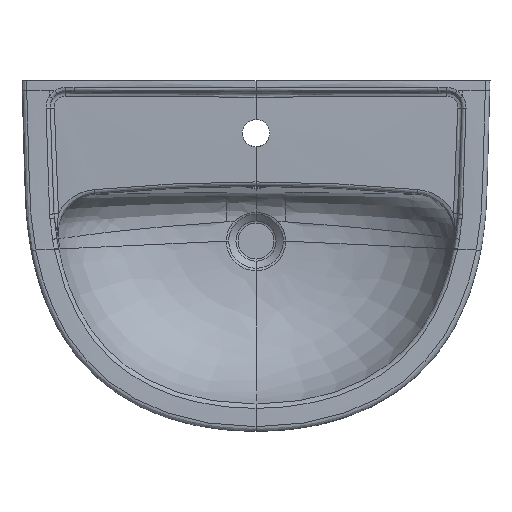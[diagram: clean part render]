
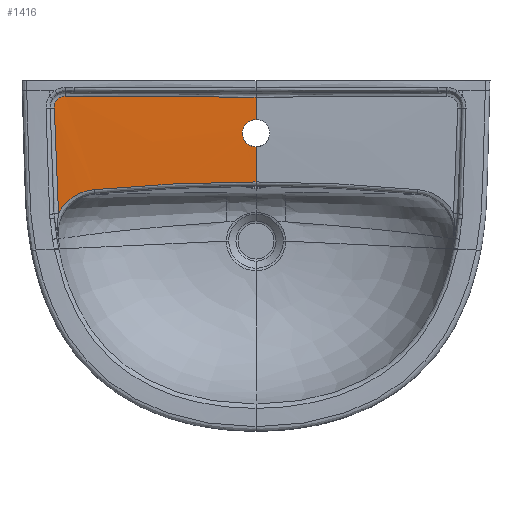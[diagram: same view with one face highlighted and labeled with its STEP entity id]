
A CAD part, top view. The second image highlights one B-rep face of the part: STEP entity #1416.
In plain terms, the highlighted free-form (B-spline) face has degree [3, 3] with [5, 5] control points.
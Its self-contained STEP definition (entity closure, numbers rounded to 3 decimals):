
#1416=ADVANCED_FACE('',(#2364),#2116,.F.);
#2116=B_SPLINE_SURFACE_WITH_KNOTS('',3,3,((#23192,#23193,#23194,#23195,
#23196),(#23197,#23198,#23199,#23200,#23201),(#23202,#23203,#23204,#23205,
#23206),(#23207,#23208,#23209,#23210,#23211),(#23212,#23213,#23214,#23215,
#23216)),.UNSPECIFIED.,.F.,.F.,.F.,(4,1,4),(4,1,4),(0.,0.385,1.),(0.,0.5,
1.),.UNSPECIFIED.);
#2364=FACE_OUTER_BOUND('',#3156,.T.);
#3156=EDGE_LOOP('',(#4463,#4464,#4465,#4466,#4467,#4468,#4469,#4470));
#4463=ORIENTED_EDGE('',*,*,#9200,.F.);
#4464=ORIENTED_EDGE('',*,*,#9201,.F.);
#4465=ORIENTED_EDGE('',*,*,#9086,.F.);
#4466=ORIENTED_EDGE('',*,*,#9082,.F.);
#4467=ORIENTED_EDGE('',*,*,#9085,.F.);
#4468=ORIENTED_EDGE('',*,*,#9098,.F.);
#4469=ORIENTED_EDGE('',*,*,#9093,.F.);
#4470=ORIENTED_EDGE('',*,*,#9202,.F.);
#7901=VERTEX_POINT('',#17830);
#7902=VERTEX_POINT('',#17837);
#7903=VERTEX_POINT('',#17891);
#7904=VERTEX_POINT('',#17949);
#7908=VERTEX_POINT('',#18046);
#7910=VERTEX_POINT('',#18052);
#7974=VERTEX_POINT('',#23180);
#7975=VERTEX_POINT('',#23181);
#9082=EDGE_CURVE('',#7901,#7902,#10927,.T.);
#9085=EDGE_CURVE('',#7903,#7901,#10929,.T.);
#9086=EDGE_CURVE('',#7902,#7904,#10930,.T.);
#9093=EDGE_CURVE('',#7908,#7910,#10935,.T.);
#9098=EDGE_CURVE('',#7910,#7903,#10940,.T.);
#9200=EDGE_CURVE('',#7974,#7975,#11033,.T.);
#9201=EDGE_CURVE('',#7904,#7974,#11034,.T.);
#9202=EDGE_CURVE('',#7975,#7908,#11035,.T.);
#10927=B_SPLINE_CURVE_WITH_KNOTS('',3,(#17831,#17832,#17833,#17834,#17835,
#17836),.UNSPECIFIED.,.F.,.F.,(4,2,4),(0.,0.5,1.),.UNSPECIFIED.);
#10929=B_SPLINE_CURVE_WITH_KNOTS('',3,(#17892,#17893,#17894,#17895,#17896,
#17897,#17898,#17899),.UNSPECIFIED.,.F.,.F.,(4,2,2,4),(0.,0.25,0.5,1.),
 .UNSPECIFIED.);
#10930=B_SPLINE_CURVE_WITH_KNOTS('',3,(#17936,#17937,#17938,#17939,#17940,
#17941,#17942,#17943,#17944,#17945,#17946,#17947,#17948),.UNSPECIFIED.,
 .F.,.F.,(4,3,3,3,4),(0.,0.16,0.479,0.799,
1.),.UNSPECIFIED.);
#10935=B_SPLINE_CURVE_WITH_KNOTS('',3,(#18048,#18049,#18050,#18051),
 .UNSPECIFIED.,.F.,.F.,(4,4),(0.,1.),.UNSPECIFIED.);
#10940=B_SPLINE_CURVE_WITH_KNOTS('',3,(#18095,#18096,#18097,#18098,#18099,
#18100,#18101,#18102,#18103,#18104),.UNSPECIFIED.,.F.,.F.,(4,2,2,2,4),(0.,
0.25,0.5,0.75,1.),.UNSPECIFIED.);
#11033=B_SPLINE_CURVE_WITH_KNOTS('',3,(#23166,#23167,#23168,#23169,#23170,
#23171,#23172,#23173,#23174,#23175,#23176,#23177,#23178,#23179),
 .UNSPECIFIED.,.F.,.F.,(4,2,2,2,2,2,4),(0.,0.125,0.25,0.5,
0.625,0.75,1.),.UNSPECIFIED.);
#11034=B_SPLINE_CURVE_WITH_KNOTS('',3,(#23182,#23183,#23184,#23185,#23186),
 .UNSPECIFIED.,.F.,.F.,(4,1,4),(0.,0.385,1.),.UNSPECIFIED.);
#11035=B_SPLINE_CURVE_WITH_KNOTS('',3,(#23187,#23188,#23189,#23190,#23191),
 .UNSPECIFIED.,.F.,.F.,(4,1,4),(0.,0.385,1.),.UNSPECIFIED.);
#17830=CARTESIAN_POINT('',(-258.041,-35.09,-11.626));
#17831=CARTESIAN_POINT('',(-258.041,-35.09,-11.626));
#17832=CARTESIAN_POINT('',(-258.144,-31.208,-11.581));
#17833=CARTESIAN_POINT('',(-256.84,-27.362,-11.531));
#17834=CARTESIAN_POINT('',(-251.817,-21.509,-11.429));
#17835=CARTESIAN_POINT('',(-248.075,-19.682,-11.378));
#17836=CARTESIAN_POINT('',(-244.184,-19.731,-11.338));
#17837=CARTESIAN_POINT('',(-244.184,-19.731,-11.338));
#17891=CARTESIAN_POINT('',(-252.701,-169.722,-16.211));
#17892=CARTESIAN_POINT('',(-252.701,-169.722,-16.211));
#17893=CARTESIAN_POINT('',(-253.728,-158.547,-15.582));
#17894=CARTESIAN_POINT('',(-254.347,-147.336,-15.01));
#17895=CARTESIAN_POINT('',(-255.183,-124.902,-13.989));
#17896=CARTESIAN_POINT('',(-255.574,-113.681,-13.542));
#17897=CARTESIAN_POINT('',(-256.726,-80.013,-12.393));
#17898=CARTESIAN_POINT('',(-257.443,-57.555,-11.881));
#17899=CARTESIAN_POINT('',(-258.041,-35.09,-11.626));
#17936=CARTESIAN_POINT('',(-244.184,-19.731,-11.338));
#17937=CARTESIAN_POINT('',(-231.182,-19.896,-11.203));
#17938=CARTESIAN_POINT('',(-218.181,-20.047,-11.079));
#17939=CARTESIAN_POINT('',(-205.179,-20.185,-10.966));
#17940=CARTESIAN_POINT('',(-179.175,-20.462,-10.74));
#17941=CARTESIAN_POINT('',(-153.171,-20.685,-10.557));
#17942=CARTESIAN_POINT('',(-127.165,-20.857,-10.417));
#17943=CARTESIAN_POINT('',(-101.16,-21.028,-10.277));
#17944=CARTESIAN_POINT('',(-75.154,-21.147,-10.18));
#17945=CARTESIAN_POINT('',(-49.148,-21.213,-10.126));
#17946=CARTESIAN_POINT('',(-32.766,-21.255,-10.091));
#17947=CARTESIAN_POINT('',(-16.383,-21.276,-10.074));
#17948=CARTESIAN_POINT('',(0.,-21.276,-10.074));
#17949=CARTESIAN_POINT('',(0.,-21.276,-10.074));
#18046=CARTESIAN_POINT('',(0.,-129.645,-12.761));
#18048=CARTESIAN_POINT('',(0.,-129.645,-12.761));
#18049=CARTESIAN_POINT('',(-69.033,-129.645,-12.761));
#18050=CARTESIAN_POINT('',(-138.027,-132.918,-13.212));
#18051=CARTESIAN_POINT('',(-206.745,-139.436,-14.156));
#18052=CARTESIAN_POINT('',(-206.745,-139.436,-14.156));
#18095=CARTESIAN_POINT('',(-206.745,-139.436,-14.156));
#18096=CARTESIAN_POINT('',(-211.557,-139.893,-14.222));
#18097=CARTESIAN_POINT('',(-216.23,-140.885,-14.313));
#18098=CARTESIAN_POINT('',(-225.292,-143.977,-14.551));
#18099=CARTESIAN_POINT('',(-229.687,-146.103,-14.699));
#18100=CARTESIAN_POINT('',(-237.667,-151.294,-15.043));
#18101=CARTESIAN_POINT('',(-241.363,-154.421,-15.243));
#18102=CARTESIAN_POINT('',(-247.807,-161.531,-15.694));
#18103=CARTESIAN_POINT('',(-250.516,-165.444,-15.94));
#18104=CARTESIAN_POINT('',(-252.701,-169.722,-16.211));
#23166=CARTESIAN_POINT('',(0.,-49.813,-10.408));
#23167=CARTESIAN_POINT('',(-2.312,-49.813,-10.408));
#23168=CARTESIAN_POINT('',(-4.581,-50.268,-10.415));
#23169=CARTESIAN_POINT('',(-8.819,-52.024,-10.446));
#23170=CARTESIAN_POINT('',(-10.76,-53.324,-10.469));
#23171=CARTESIAN_POINT('',(-15.603,-58.166,-10.559));
#23172=CARTESIAN_POINT('',(-17.497,-62.734,-10.65));
#23173=CARTESIAN_POINT('',(-17.502,-69.579,-10.801));
#23174=CARTESIAN_POINT('',(-17.049,-71.872,-10.854));
#23175=CARTESIAN_POINT('',(-15.298,-76.109,-10.956));
#23176=CARTESIAN_POINT('',(-14.015,-78.037,-11.004));
#23177=CARTESIAN_POINT('',(-9.119,-82.939,-11.13));
#23178=CARTESIAN_POINT('',(-4.624,-84.804,-11.181));
#23179=CARTESIAN_POINT('',(0.,-84.804,-11.181));
#23180=CARTESIAN_POINT('',(0.,-49.813,-10.408));
#23181=CARTESIAN_POINT('',(0.,-84.804,-11.181));
#23182=CARTESIAN_POINT('',(0.,9.546,-10.015));
#23183=CARTESIAN_POINT('',(0.,-19.703,-9.923));
#23184=CARTESIAN_POINT('',(0.,-95.678,-10.781));
#23185=CARTESIAN_POINT('',(0.,-171.58,-14.478));
#23186=CARTESIAN_POINT('',(0.,-218.183,-17.823));
#23187=CARTESIAN_POINT('',(0.,9.546,-10.015));
#23188=CARTESIAN_POINT('',(0.,-19.703,-9.923));
#23189=CARTESIAN_POINT('',(0.,-95.678,-10.781));
#23190=CARTESIAN_POINT('',(0.,-171.58,-14.478));
#23191=CARTESIAN_POINT('',(0.,-218.183,-17.823));
#23192=CARTESIAN_POINT('',(0.,9.546,-10.015));
#23193=CARTESIAN_POINT('',(-44.168,9.546,-10.015));
#23194=CARTESIAN_POINT('',(-132.504,9.547,-10.266));
#23195=CARTESIAN_POINT('',(-220.838,9.547,-11.019));
#23196=CARTESIAN_POINT('',(-265.003,9.547,-11.52));
#23197=CARTESIAN_POINT('',(0.,-19.703,-9.923));
#23198=CARTESIAN_POINT('',(-44.168,-19.703,-9.923));
#23199=CARTESIAN_POINT('',(-132.503,-19.703,-10.173));
#23200=CARTESIAN_POINT('',(-220.835,-19.703,-10.92));
#23201=CARTESIAN_POINT('',(-265.,-19.703,-11.418));
#23202=CARTESIAN_POINT('',(0.,-95.678,-10.781));
#23203=CARTESIAN_POINT('',(-44.167,-95.678,-10.781));
#23204=CARTESIAN_POINT('',(-132.5,-95.678,-11.032));
#23205=CARTESIAN_POINT('',(-220.831,-95.679,-11.785));
#23206=CARTESIAN_POINT('',(-264.995,-95.68,-12.287));
#23207=CARTESIAN_POINT('',(0.,-171.58,-14.478));
#23208=CARTESIAN_POINT('',(-44.168,-171.58,-14.478));
#23209=CARTESIAN_POINT('',(-132.504,-171.58,-14.748));
#23210=CARTESIAN_POINT('',(-220.837,-171.579,-15.556));
#23211=CARTESIAN_POINT('',(-265.002,-171.579,-16.095));
#23212=CARTESIAN_POINT('',(0.,-218.183,-17.823));
#23213=CARTESIAN_POINT('',(-44.17,-218.183,-17.823));
#23214=CARTESIAN_POINT('',(-132.509,-218.181,-18.11));
#23215=CARTESIAN_POINT('',(-220.845,-218.178,-18.97));
#23216=CARTESIAN_POINT('',(-265.011,-218.175,-19.544));
